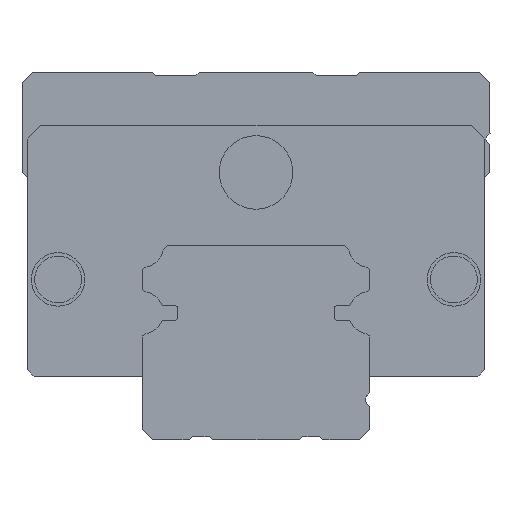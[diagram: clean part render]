
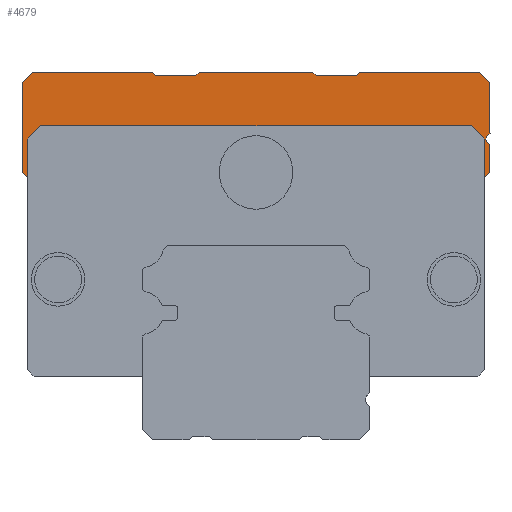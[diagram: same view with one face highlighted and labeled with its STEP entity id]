
A CAD part, left-side view. The second image highlights one B-rep face of the part: STEP entity #4679.
In plain terms, the highlighted planar face has unit normal (-1, 0, 0).
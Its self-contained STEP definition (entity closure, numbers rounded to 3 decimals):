
#4479=CARTESIAN_POINT('',(157.257,-0.088,49.615));
#4480=DIRECTION('',(1.0,0.0,0.0));
#4481=DIRECTION('',(0.0,0.0,-1.0));
#4482=AXIS2_PLACEMENT_3D('',#4479,#4480,#4481);
#4483=PLANE('',#4482);
#4484=CARTESIAN_POINT('',(157.257,34.2,39.2));
#4485=VERTEX_POINT('',#4484);
#4486=CARTESIAN_POINT('',(157.257,35.0,40.0));
#4487=VERTEX_POINT('',#4486);
#4488=CARTESIAN_POINT('',(157.257,34.2,39.2));
#4489=DIRECTION('',(0.0,0.707,0.707));
#4490=VECTOR('',#4489,1.131);
#4491=LINE('',#4488,#4490);
#4492=EDGE_CURVE('',#4485,#4487,#4491,.T.);
#4493=ORIENTED_EDGE('',*,*,#4492,.F.);
#4494=CARTESIAN_POINT('',(157.257,34.2,45.0));
#4495=VERTEX_POINT('',#4494);
#4496=CARTESIAN_POINT('',(157.257,34.2,45.0));
#4497=DIRECTION('',(0.0,0.0,-1.0));
#4498=VECTOR('',#4497,5.8);
#4499=LINE('',#4496,#4498);
#4500=EDGE_CURVE('',#4495,#4485,#4499,.T.);
#4501=ORIENTED_EDGE('',*,*,#4500,.F.);
#4502=CARTESIAN_POINT('',(157.257,32.2,47.0));
#4503=VERTEX_POINT('',#4502);
#4504=CARTESIAN_POINT('',(157.257,32.2,47.0));
#4505=DIRECTION('',(0.0,0.707,-0.707));
#4506=VECTOR('',#4505,2.828);
#4507=LINE('',#4504,#4506);
#4508=EDGE_CURVE('',#4503,#4495,#4507,.T.);
#4509=ORIENTED_EDGE('',*,*,#4508,.F.);
#4510=CARTESIAN_POINT('',(157.257,-32.2,47.0));
#4511=VERTEX_POINT('',#4510);
#4512=CARTESIAN_POINT('',(157.257,-32.2,47.0));
#4513=DIRECTION('',(0.0,1.0,0.0));
#4514=VECTOR('',#4513,64.4);
#4515=LINE('',#4512,#4514);
#4516=EDGE_CURVE('',#4511,#4503,#4515,.T.);
#4517=ORIENTED_EDGE('',*,*,#4516,.F.);
#4518=CARTESIAN_POINT('',(157.257,-34.2,45.0));
#4519=VERTEX_POINT('',#4518);
#4520=CARTESIAN_POINT('',(157.257,-34.2,45.0));
#4521=DIRECTION('',(0.0,0.707,0.707));
#4522=VECTOR('',#4521,2.828);
#4523=LINE('',#4520,#4522);
#4524=EDGE_CURVE('',#4519,#4511,#4523,.T.);
#4525=ORIENTED_EDGE('',*,*,#4524,.F.);
#4526=CARTESIAN_POINT('',(157.257,-34.2,39.2));
#4527=VERTEX_POINT('',#4526);
#4528=CARTESIAN_POINT('',(157.257,-34.2,39.2));
#4529=DIRECTION('',(0.0,0.0,1.0));
#4530=VECTOR('',#4529,5.8);
#4531=LINE('',#4528,#4530);
#4532=EDGE_CURVE('',#4527,#4519,#4531,.T.);
#4533=ORIENTED_EDGE('',*,*,#4532,.F.);
#4534=CARTESIAN_POINT('',(157.257,-35.0,40.0));
#4535=VERTEX_POINT('',#4534);
#4536=CARTESIAN_POINT('',(157.257,-35.0,40.0));
#4537=DIRECTION('',(0.0,0.707,-0.707));
#4538=VECTOR('',#4537,1.131);
#4539=LINE('',#4536,#4538);
#4540=EDGE_CURVE('',#4535,#4527,#4539,.T.);
#4541=ORIENTED_EDGE('',*,*,#4540,.F.);
#4542=CARTESIAN_POINT('',(157.257,-35.0,44.193));
#4543=VERTEX_POINT('',#4542);
#4544=CARTESIAN_POINT('',(157.257,-35.0,44.193));
#4545=DIRECTION('',(0.0,0.0,-1.0));
#4546=VECTOR('',#4545,4.193);
#4547=LINE('',#4544,#4546);
#4548=EDGE_CURVE('',#4543,#4535,#4547,.T.);
#4549=ORIENTED_EDGE('',*,*,#4548,.F.);
#4550=CARTESIAN_POINT('',(157.257,-34.5,44.693));
#4551=VERTEX_POINT('',#4550);
#4552=CARTESIAN_POINT('',(157.257,-34.5,44.693));
#4553=DIRECTION('',(0.0,-0.707,-0.707));
#4554=VECTOR('',#4553,0.707);
#4555=LINE('',#4552,#4554);
#4556=EDGE_CURVE('',#4551,#4543,#4555,.T.);
#4557=ORIENTED_EDGE('',*,*,#4556,.F.);
#4558=CARTESIAN_POINT('',(157.257,-34.5,45.307));
#4559=VERTEX_POINT('',#4558);
#4560=CARTESIAN_POINT('',(157.257,-34.807,45.));
#4561=DIRECTION('',(-1.,0.0,0.0));
#4562=DIRECTION('',(0.0,-0.707,0.707));
#4563=AXIS2_PLACEMENT_3D('',#4560,#4561,#4562);
#4564=CIRCLE('',#4563,0.434);
#4565=EDGE_CURVE('',#4559,#4551,#4564,.T.);
#4566=ORIENTED_EDGE('',*,*,#4565,.F.);
#4567=CARTESIAN_POINT('',(157.257,-35.,45.807));
#4568=VERTEX_POINT('',#4567);
#4569=CARTESIAN_POINT('',(157.257,-35.,45.807));
#4570=DIRECTION('',(0.0,0.707,-0.707));
#4571=VECTOR('',#4570,0.707);
#4572=LINE('',#4569,#4571);
#4573=EDGE_CURVE('',#4568,#4559,#4572,.T.);
#4574=ORIENTED_EDGE('',*,*,#4573,.F.);
#4575=CARTESIAN_POINT('',(157.257,-35.0,53.5));
#4576=VERTEX_POINT('',#4575);
#4577=CARTESIAN_POINT('',(157.257,-35.0,53.5));
#4578=DIRECTION('',(0.0,0.,-1.0));
#4579=VECTOR('',#4578,7.693);
#4580=LINE('',#4577,#4579);
#4581=EDGE_CURVE('',#4576,#4568,#4580,.T.);
#4582=ORIENTED_EDGE('',*,*,#4581,.F.);
#4583=CARTESIAN_POINT('',(157.257,-33.5,55.0));
#4584=VERTEX_POINT('',#4583);
#4585=CARTESIAN_POINT('',(157.257,-33.5,55.0));
#4586=DIRECTION('',(0.0,-0.707,-0.707));
#4587=VECTOR('',#4586,2.121);
#4588=LINE('',#4585,#4587);
#4589=EDGE_CURVE('',#4584,#4576,#4588,.T.);
#4590=ORIENTED_EDGE('',*,*,#4589,.F.);
#4591=CARTESIAN_POINT('',(157.257,-15.5,55.0));
#4592=VERTEX_POINT('',#4591);
#4593=CARTESIAN_POINT('',(157.257,-15.5,55.0));
#4594=DIRECTION('',(0.0,-1.0,0.0));
#4595=VECTOR('',#4594,18.0);
#4596=LINE('',#4593,#4595);
#4597=EDGE_CURVE('',#4592,#4584,#4596,.T.);
#4598=ORIENTED_EDGE('',*,*,#4597,.F.);
#4599=CARTESIAN_POINT('',(157.257,-15.0,54.5));
#4600=VERTEX_POINT('',#4599);
#4601=CARTESIAN_POINT('',(157.257,-15.0,54.5));
#4602=DIRECTION('',(0.0,-0.707,0.707));
#4603=VECTOR('',#4602,0.707);
#4604=LINE('',#4601,#4603);
#4605=EDGE_CURVE('',#4600,#4592,#4604,.T.);
#4606=ORIENTED_EDGE('',*,*,#4605,.F.);
#4607=CARTESIAN_POINT('',(157.257,-9.0,54.5));
#4608=VERTEX_POINT('',#4607);
#4609=CARTESIAN_POINT('',(157.257,-9.0,54.5));
#4610=DIRECTION('',(0.0,-1.0,0.0));
#4611=VECTOR('',#4610,6.0);
#4612=LINE('',#4609,#4611);
#4613=EDGE_CURVE('',#4608,#4600,#4612,.T.);
#4614=ORIENTED_EDGE('',*,*,#4613,.F.);
#4615=CARTESIAN_POINT('',(157.257,-8.5,55.0));
#4616=VERTEX_POINT('',#4615);
#4617=CARTESIAN_POINT('',(157.257,-8.5,55.0));
#4618=DIRECTION('',(0.0,-0.707,-0.707));
#4619=VECTOR('',#4618,0.707);
#4620=LINE('',#4617,#4619);
#4621=EDGE_CURVE('',#4616,#4608,#4620,.T.);
#4622=ORIENTED_EDGE('',*,*,#4621,.F.);
#4623=CARTESIAN_POINT('',(157.257,8.5,55.0));
#4624=VERTEX_POINT('',#4623);
#4625=CARTESIAN_POINT('',(157.257,8.5,55.0));
#4626=DIRECTION('',(0.0,-1.0,0.0));
#4627=VECTOR('',#4626,17.0);
#4628=LINE('',#4625,#4627);
#4629=EDGE_CURVE('',#4624,#4616,#4628,.T.);
#4630=ORIENTED_EDGE('',*,*,#4629,.F.);
#4631=CARTESIAN_POINT('',(157.257,9.0,54.5));
#4632=VERTEX_POINT('',#4631);
#4633=CARTESIAN_POINT('',(157.257,9.0,54.5));
#4634=DIRECTION('',(0.0,-0.707,0.707));
#4635=VECTOR('',#4634,0.707);
#4636=LINE('',#4633,#4635);
#4637=EDGE_CURVE('',#4632,#4624,#4636,.T.);
#4638=ORIENTED_EDGE('',*,*,#4637,.F.);
#4639=CARTESIAN_POINT('',(157.257,15.0,54.5));
#4640=VERTEX_POINT('',#4639);
#4641=CARTESIAN_POINT('',(157.257,15.0,54.5));
#4642=DIRECTION('',(0.0,-1.0,0.0));
#4643=VECTOR('',#4642,6.0);
#4644=LINE('',#4641,#4643);
#4645=EDGE_CURVE('',#4640,#4632,#4644,.T.);
#4646=ORIENTED_EDGE('',*,*,#4645,.F.);
#4647=CARTESIAN_POINT('',(157.257,15.5,55.0));
#4648=VERTEX_POINT('',#4647);
#4649=CARTESIAN_POINT('',(157.257,15.5,55.0));
#4650=DIRECTION('',(0.0,-0.707,-0.707));
#4651=VECTOR('',#4650,0.707);
#4652=LINE('',#4649,#4651);
#4653=EDGE_CURVE('',#4648,#4640,#4652,.T.);
#4654=ORIENTED_EDGE('',*,*,#4653,.F.);
#4655=CARTESIAN_POINT('',(157.257,33.5,55.0));
#4656=VERTEX_POINT('',#4655);
#4657=CARTESIAN_POINT('',(157.257,33.5,55.0));
#4658=DIRECTION('',(0.0,-1.0,0.0));
#4659=VECTOR('',#4658,18.0);
#4660=LINE('',#4657,#4659);
#4661=EDGE_CURVE('',#4656,#4648,#4660,.T.);
#4662=ORIENTED_EDGE('',*,*,#4661,.F.);
#4663=CARTESIAN_POINT('',(157.257,35.0,53.5));
#4664=VERTEX_POINT('',#4663);
#4665=CARTESIAN_POINT('',(157.257,35.0,53.5));
#4666=DIRECTION('',(0.0,-0.707,0.707));
#4667=VECTOR('',#4666,2.121);
#4668=LINE('',#4665,#4667);
#4669=EDGE_CURVE('',#4664,#4656,#4668,.T.);
#4670=ORIENTED_EDGE('',*,*,#4669,.F.);
#4671=CARTESIAN_POINT('',(157.257,35.0,40.0));
#4672=DIRECTION('',(0.0,0.0,1.0));
#4673=VECTOR('',#4672,13.5);
#4674=LINE('',#4671,#4673);
#4675=EDGE_CURVE('',#4487,#4664,#4674,.T.);
#4676=ORIENTED_EDGE('',*,*,#4675,.F.);
#4677=EDGE_LOOP('',(#4493,#4501,#4509,#4517,#4525,#4533,#4541,#4549,#4557,#4566,#4574,#4582,#4590,#4598,#4606,#4614,#4622,#4630,#4638,#4646,#4654,#4662,#4670,#4676));
#4678=FACE_OUTER_BOUND('',#4677,.T.);
#4679=ADVANCED_FACE('',(#4678),#4483,.F.);
